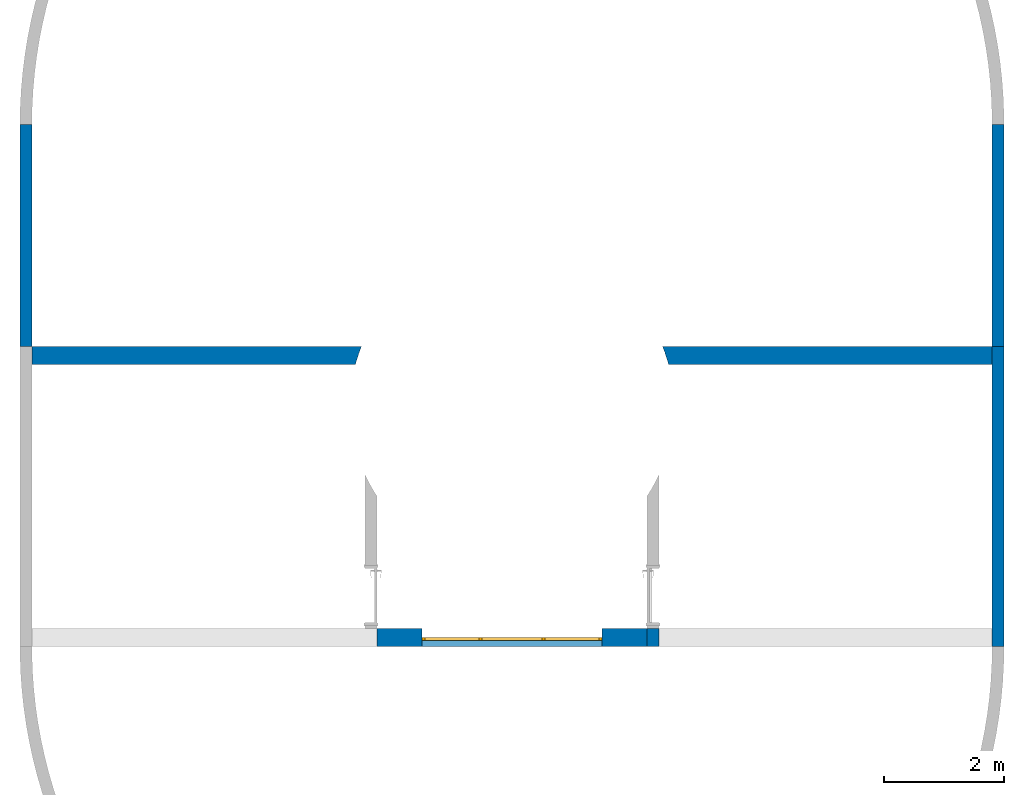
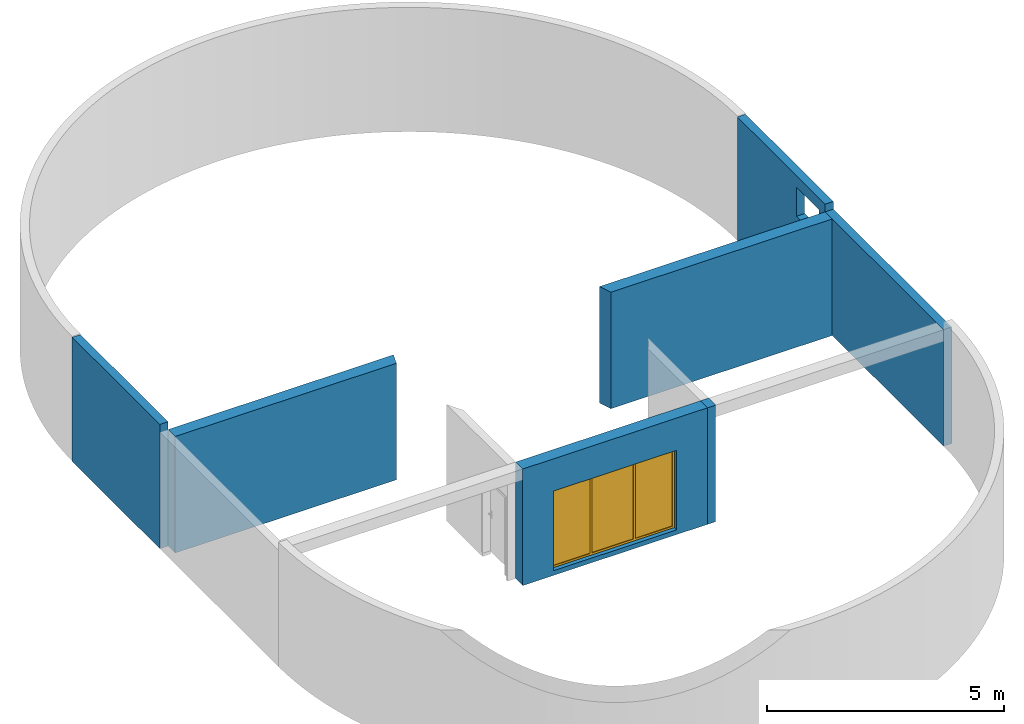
# One storey, part 4 of 5: 7 walls, 1 window, 3 openings.
"""IFC4 building model written with IfcOpenShell, lengths in millimetres."""

from ifc_helpers import new_model, entity, si_unit, converted_unit, derived_unit, direction, frame, origin_with_axes, place, context, subcontext, project, spatial, polygons, material, constituent, constituent_set, type_object, element, fill, save


model = new_model("IFC4")

# Units and contexts
model_context = context("Model", 3, precision=0.01, world=origin_with_axes(), true_north=direction((0.0, 1.0)))
body_context = subcontext(model_context, "Body", "Model", "MODEL_VIEW")
ifc_project = project(units=[si_unit("LENGTHUNIT", "METRE", prefix="MILLI"), si_unit("AREAUNIT", "SQUARE_METRE"), si_unit("VOLUMEUNIT", "CUBIC_METRE"), converted_unit("PLANEANGLEUNIT", "DEGREE", entity("IfcPlaneAngleMeasure", 0.0174532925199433), si_unit("PLANEANGLEUNIT", "RADIAN"), dimensions=[0, 0, 0, 0, 0, 0, 0]), converted_unit("TIMEUNIT", "Year", entity("IfcTimeMeasure", 31557600.0), si_unit("TIMEUNIT", "SECOND"), dimensions=[0, 0, 1, 0, 0, 0, 0]), si_unit("MASSUNIT", "GRAM", prefix="KILO"), si_unit("THERMODYNAMICTEMPERATUREUNIT", "DEGREE_CELSIUS"), si_unit("LUMINOUSINTENSITYUNIT", "LUMEN"), si_unit("ENERGYUNIT", "JOULE", prefix="MEGA"), derived_unit("THERMALCONDUCTANCEUNIT", [(si_unit("POWERUNIT", "WATT"), 1), (si_unit("LENGTHUNIT", "METRE"), -1), (si_unit("THERMODYNAMICTEMPERATUREUNIT", "KELVIN"), -1)]), derived_unit("SPECIFICHEATCAPACITYUNIT", [(si_unit("ENERGYUNIT", "JOULE"), 1), (si_unit("MASSUNIT", "GRAM", prefix="KILO"), -1), (si_unit("THERMODYNAMICTEMPERATUREUNIT", "KELVIN"), -1)]), derived_unit("MASSDENSITYUNIT", [(si_unit("MASSUNIT", "GRAM", prefix="KILO"), 1), (si_unit("VOLUMEUNIT", "CUBIC_METRE"), -1)])], contexts=[model_context])

# Site, building, storey
site_placement = place(None, origin_with_axes())
site = spatial("IfcSite", under=ifc_project, at=site_placement, Name="Exteriér", CompositionType="ELEMENT")
building_placement = place(site_placement, origin_with_axes())
building = spatial("IfcBuilding", under=site, at=building_placement, Name="Univerzitní lezecké centrum", CompositionType="ELEMENT")
storey_placement = place(building_placement, frame((0.0, 0.0, 3200.0), z_axis=(0.0, 0.0, 1.0), x_axis=(1.0, 0.0, 0.0)))
storey = spatial("IfcBuildingStorey", under=building, at=storey_placement, Name="2.NP", CompositionType="ELEMENT", Elevation=3200.0)

# Walls
ifc_material_1 = material(Name="Beton vyztužený - vnější svislé kce")
ifc_constituent_1 = constituent(ifc_material_1, Name="Beton vyztužený - vnější svislé kce")
ifc_constituent_set_1 = constituent_set(constituents=[ifc_constituent_1], Name="!Vnější betonová stěna 200 mm")
wall_type_1 = type_object("IfcWallType", Name="!Vnější betonová stěna 200 mm 200", PredefinedType="NOTDEFINED")
wall_1_placement = place(storey_placement, frame((10449.85164885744, 4699.99999999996, -120.000000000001), z_axis=(0.0, 0.0, 1.0), x_axis=(0.0, -1.0, 0.0)))
element("IfcWall", 1, at=wall_1_placement, inside=storey, type_object=wall_type_1, material=ifc_constituent_set_1, Name="St01", PredefinedType="NOTDEFINED", context=body_context, shape_type="Tessellation", body=[
    polygons([(0.0, 0.0, 3000.0), (5000.0, 0.0, 3000.0), (5000.0, 199.9999999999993, 3000.0), (0.0, 200.0000000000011, 3000.0), (0.0, 0.0, 0.0), (5000.0, 0.0, 0.0), (5000.0, 199.9999999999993, 0.0), (0.0, 199.9999999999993, 0.0)], [[[1, 2, 3, 4]], [[5, 6, 2, 1]], [[3, 2, 6, 7]], [[4, 3, 7, 8]], [[5, 1, 4, 8]], [[8, 7, 6, 5]]], closed=True),
])
ifc_constituent_2 = constituent(ifc_material_1, Name="Beton vyztužený - vnější svislé kce")
ifc_constituent_set_2 = constituent_set(constituents=[ifc_constituent_2], Name="!Vnější betonová stěna 200 mm")
wall_2_placement = place(storey_placement, frame((-5550.148351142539, 8400.000000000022, -120.0000000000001), z_axis=(0.0, 0.0, 1.0), x_axis=(0.0, -1.0, 0.0)))
element("IfcWall", 2, at=wall_2_placement, inside=storey, type_object=wall_type_1, material=ifc_constituent_set_2, Name="St01", PredefinedType="NOTDEFINED", context=body_context, shape_type="Tessellation", body=[
    polygons([(3700.000000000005, -200.0000000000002, 3000.0), (3700.000000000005, 0.0, 3000.0), (3700.000000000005, 0.0, 3200.0), (3700.000000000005, -200.0000000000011, 3200.0), (3700.000000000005, 0.0, 0.0), (3700.000000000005, -200.0000000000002, 0.0), (0.0, 0.0, 0.0), (0.0, 0.0, 3200.0), (0.0, -200.0000000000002, 3200.0), (0.0, -200.0000000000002, 0.0)], [[[1, 2, 3, 4]], [[5, 2, 1, 6]], [[2, 5, 7, 8, 3]], [[9, 4, 3, 8]], [[6, 1, 4, 9, 10]], [[5, 6, 10, 7]], [[9, 8, 7, 10]]], closed=True),
])

# Wall, openings
ifc_constituent_3 = constituent(ifc_material_1, Name="Beton vyztužený - vnější svislé kce")
ifc_constituent_set_3 = constituent_set(constituents=[ifc_constituent_3], Name="!Vnější betonová stěna 200 mm")
wall_3_placement = place(storey_placement, frame((10449.85164885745, 8399.999999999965, -120.000000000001), z_axis=(0.0, 0.0, 1.0), x_axis=(0.0, -1.0, 0.0)))
wall_3 = element("IfcWall", 3, at=wall_3_placement, inside=storey, type_object=wall_type_1, material=ifc_constituent_set_3, Name="St01", PredefinedType="NOTDEFINED", context=body_context, shape_type="Tessellation", body=[
    polygons([(3700.000000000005, 0.0, 3000.0), (3700.000000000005, 200.0000000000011, 3000.0), (3700.000000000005, 200.0000000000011, 3200.0), (3700.000000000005, 0.0, 3200.0), (3700.000000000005, 199.9999999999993, 0.0), (3700.000000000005, 0.0, 0.0), (0.0, 199.9999999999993, 0.0), (0.0, 200.0000000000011, 3200.0), (2477.665309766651, 200.0000000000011, 292.6445664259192), (3417.665309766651, 200.0000000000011, 292.6445664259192), (3417.665309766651, 200.0000000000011, 1032.644566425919), (2477.665309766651, 200.0000000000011, 1032.644566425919), (2493.613625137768, 200.0000000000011, 2158.246547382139), (3433.613625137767, 200.0000000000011, 2158.246547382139), (3433.613625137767, 200.0000000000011, 2898.246547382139), (2493.613625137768, 200.0000000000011, 2898.246547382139), (0.0, 0.0, 3200.0), (0.0, 0.0, 0.0), (3417.665309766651, 0.0, 1032.644566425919), (3417.665309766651, 0.0, 292.6445664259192), (2477.665309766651, 0.0, 292.6445664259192), (2477.665309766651, 0.0, 1032.644566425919), (3433.613625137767, 0.0, 2898.246547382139), (3433.613625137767, 0.0, 2158.246547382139), (2493.613625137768, 0.0, 2158.246547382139), (2493.613625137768, 0.0, 2898.246547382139)], [[[1, 2, 3, 4]], [[5, 2, 1, 6]], [[2, 5, 7, 8, 3], [9, 10, 11, 12], [13, 14, 15, 16]], [[8, 17, 4, 3]], [[6, 1, 4, 17, 18], [19, 20, 21, 22], [23, 24, 25, 26]], [[5, 6, 18, 7]], [[8, 7, 18, 17]], [[20, 10, 9, 21]], [[19, 11, 10, 20]], [[22, 12, 11, 19]], [[21, 9, 12, 22]], [[24, 14, 13, 25]], [[23, 15, 14, 24]], [[26, 16, 15, 23]], [[25, 13, 16, 26]]], closed=True),
])
opening_1_placement = place(wall_3_placement, frame((8399.999999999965, -10449.85164885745, -3080.0), z_axis=(0.0, 0.0, 1.0), x_axis=(0.0, 1.0, 0.0)))
element("IfcOpeningElement", 4, at=opening_1_placement, cuts=wall_3, Name="Pr01", PredefinedType="NOTDEFINED", context=body_context, identifier="Reference", shape_type="Tessellation", body=[
    polygons([(10249.85164885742, 5922.334690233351, 3372.644566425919), (10249.85164885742, 5922.334690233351, 4112.644566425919), (10849.85164885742, 5922.334690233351, 4112.644566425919), (10849.85164885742, 5922.334690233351, 3372.644566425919), (10249.85164885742, 4982.334690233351, 3372.644566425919), (10249.85164885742, 4982.334690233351, 4112.644566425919), (10849.85164885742, 4982.334690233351, 4112.644566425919), (10849.85164885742, 4982.334690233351, 3372.644566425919)], [[[1, 2, 3, 4]], [[1, 5, 6, 2]], [[2, 6, 7, 3]], [[4, 3, 7, 8]], [[5, 1, 4, 8]], [[6, 5, 8, 7]]], closed=True),
])
opening_2_placement = place(wall_3_placement, frame((8399.999999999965, -10449.85164885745, -3080.0), z_axis=(0.0, 0.0, 1.0), x_axis=(0.0, 1.0, 0.0)))
element("IfcOpeningElement", 5, at=opening_2_placement, cuts=wall_3, Name="Pr01", PredefinedType="NOTDEFINED", context=body_context, identifier="Reference", shape_type="Tessellation", body=[
    polygons([(10249.85164885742, 5906.386374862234, 5238.246547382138), (10249.85164885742, 5906.386374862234, 5978.246547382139), (10849.85164885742, 5906.386374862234, 5978.246547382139), (10849.85164885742, 5906.386374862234, 5238.246547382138), (10249.85164885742, 4966.386374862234, 5238.246547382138), (10249.85164885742, 4966.386374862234, 5978.246547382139), (10849.85164885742, 4966.386374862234, 5978.246547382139), (10849.85164885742, 4966.386374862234, 5238.246547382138)], [[[1, 2, 3, 4]], [[1, 5, 6, 2]], [[2, 6, 7, 3]], [[4, 3, 7, 8]], [[5, 1, 4, 8]], [[6, 5, 8, 7]]], closed=True),
])

# Walls
ifc_material_2 = material(Name="Beton vyztužený - vnitřní svislé kce")
ifc_constituent_4 = constituent(ifc_material_2, Name="Beton vyztužený - vnitřní svislé kce")
ifc_constituent_set_4 = constituent_set(constituents=[ifc_constituent_4], Name="!Vnitřní betonová stěna 300 mm")
wall_type_2 = type_object("IfcWallType", Name="!Vnitřní betonová stěna 300 mm 300", PredefinedType="NOTDEFINED")
wall_4_placement = place(storey_placement, frame((4741.139496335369, 4699.999999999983, -120.000000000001), z_axis=(0.0, 0.0, 1.0), x_axis=(1.0, 0.0, 0.0)))
element("IfcWall", 6, at=wall_4_placement, inside=storey, type_object=wall_type_2, material=ifc_constituent_set_4, Name="St04", PredefinedType="NOTDEFINED", context=body_context, shape_type="Tessellation", body=[
    polygons([(253.2661307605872, -93.031968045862, 3000.0), (305.6665879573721, -256.2435752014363, 3000.0), (316.7088482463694, -300.0000000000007, 3000.0), (5708.712152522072, -299.9999999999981, 3000.0), (5708.712152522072, 0.0, 3000.0), (216.7398023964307, 0.0, 3000.0), (253.2661307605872, -93.031968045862, 0.0), (305.6665879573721, -256.2435752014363, 0.0), (316.7088482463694, -300.0000000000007, 0.0), (5708.712152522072, -299.9999999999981, 0.0), (5708.712152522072, 0.0, 0.0), (216.7398023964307, 0.0, 0.0)], [[[1, 2, 3, 4, 5, 6]], [[2, 1, 7, 8]], [[9, 3, 2, 8]], [[3, 9, 10, 4]], [[5, 4, 10, 11]], [[12, 6, 5, 11]], [[1, 6, 12, 7]], [[7, 12, 11, 10, 9, 8]]], closed=True),
])
ifc_constituent_5 = constituent(ifc_material_2, Name="Beton vyztužený - vnitřní svislé kce")
ifc_constituent_set_5 = constituent_set(constituents=[ifc_constituent_5], Name="!Vnitřní betonová stěna 300 mm")
wall_5_placement = place(storey_placement, frame((-5550.148351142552, 4700.000000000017, -120.000000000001), z_axis=(0.0, 0.0, 1.0), x_axis=(1.0, 0.0, 0.0)))
element("IfcWall", 7, at=wall_5_placement, inside=storey, type_object=wall_type_2, material=ifc_constituent_set_5, Name="St04", PredefinedType="NOTDEFINED", context=body_context, shape_type="Tessellation", body=[
    polygons([(5396.315327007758, -280.1582932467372, 3000.0), (5447.21256919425, -116.4716799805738, 3000.0), (5491.709955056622, 0.0, 3000.0), (0.0, 0.0, 3000.0), (1.001296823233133e-07, -299.9999999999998, 3000.0), (5391.50178103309, -300.0000000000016, 3000.0), (5396.315327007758, -280.1582932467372, 0.0), (5447.21256919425, -116.4716799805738, 0.0), (5491.709955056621, 0.0, 0.0), (0.0, 0.0, 0.0), (1.001296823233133e-07, -299.9999999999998, 0.0), (5391.50178103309, -300.0000000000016, 0.0)], [[[1, 2, 3, 4, 5, 6]], [[2, 1, 7, 8]], [[9, 3, 2, 8]], [[3, 9, 10, 4]], [[5, 4, 10, 11]], [[12, 6, 5, 11]], [[1, 6, 12, 7]], [[7, 12, 11, 10, 9, 8]]], closed=True),
])

# Wall, opening, window
ifc_constituent_6 = constituent(ifc_material_2, Name="Beton vyztužený - vnitřní svislé kce")
ifc_constituent_set_6 = constituent_set(constituents=[ifc_constituent_6], Name="!Vnitřní betonová stěna 300 mm")
wall_6_placement = place(storey_placement, frame((4699.887333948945, 0.7940279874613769, -120.000000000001), z_axis=(0.0, 0.0, 1.0), x_axis=(-0.9999999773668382, -0.0002127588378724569, 0.0)))
wall_6 = element("IfcWall", 8, at=wall_6_placement, inside=storey, type_object=wall_type_2, material=ifc_constituent_set_6, Name="St04", PredefinedType="NOTDEFINED", context=body_context, shape_type="Tessellation", body=[
    polygons([(4500.157272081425, 299.9999999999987, 0.0), (4500.157272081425, 299.9999999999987, 2999.999999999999), (4500.157272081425, 0.0, 2999.999999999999), (4500.157272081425, 0.0, 0.0), (0.07116504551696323, 299.9999999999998, 0.0), (0.07116504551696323, 299.9999999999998, 3000.0), (750.2151075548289, 299.9999999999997, 120.000000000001), (3750.21510755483, 299.9999999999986, 120.000000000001), (3750.21510755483, 299.9999999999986, 2170.0), (750.2151075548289, 299.9999999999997, 2170.0), (0.0, 0.0, 3000.0), (0.0, 0.0, 0.0), (750.2151325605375, 2.086548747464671e-05, 0.0), (750.2151075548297, 0.0, 0.500000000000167), (750.2151075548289, 0.0, 120.000000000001), (750.2151075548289, 0.0, 2170.0), (3750.21510755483, 0.0, 2170.0), (3750.21510755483, 0.0, 120.000000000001), (3750.21510755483, 0.0, 0.500000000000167), (3750.215081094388, 0.0, 0.0), (3750.21510755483, 0.1595571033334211, 0.0), (3750.151308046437, 0.1595706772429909, 0.0), (3750.188540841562, 175.1595596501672, 0.0), (750.2151075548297, 175.7978305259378, 0.0), (3750.21510755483, 0.1595571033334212, 120.000000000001), (750.2151075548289, 175.7978305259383, 120.000000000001), (3750.188540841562, 175.1595596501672, 120.000000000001), (3750.183187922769, 149.9999999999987, 120.000000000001), (3750.151308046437, 0.1595706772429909, 120.000000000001), (750.2151075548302, 175.7978305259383, 0.500000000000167), (3750.21510755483, 0.1595571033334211, 0.500000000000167), (3750.151308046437, 0.1595706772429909, 0.500000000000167), (3750.188540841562, 175.1595596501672, 0.500000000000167)], [[[1, 2, 3, 4]], [[1, 5, 6, 2], [7, 8, 9, 10]], [[3, 2, 6, 11]], [[4, 3, 11, 12, 13, 14, 15, 16, 17, 18, 19, 20]], [[5, 1, 4, 20, 21, 22, 23, 24, 13, 12]], [[6, 5, 12, 11]], [[25, 8, 7, 26, 27, 28, 29]], [[18, 17, 9, 8, 25]], [[10, 9, 17, 16]], [[7, 10, 16, 15, 26]], [[13, 24, 30, 14]], [[14, 30, 26, 15]], [[31, 19, 18, 25]], [[21, 20, 19, 31]], [[21, 31, 32, 22]], [[33, 23, 22, 32]], [[24, 23, 33, 30]], [[33, 27, 26, 30]], [[27, 33, 32, 29, 28]], [[31, 25, 29, 32]]], closed=True),
])
opening_3_placement = place(wall_6_placement, frame((2250.21510755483, 0.0, 120.000000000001), z_axis=(0.0, 0.0, 1.0), x_axis=(1.0, 0.0, 0.0)))
opening_3 = element("IfcOpeningElement", 9, at=opening_3_placement, cuts=wall_6, Name="O02", context=body_context, identifier="Reference", shape_type="Tessellation", body=[
    polygons([(1500.0, 149.9999999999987, 0.0), (1500.0, 149.9999999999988, 2050.0), (1500.0, -1.957448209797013, 2050.0), (1500.0, -1.957448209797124, 0.0), (1500.0, 301.9574482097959, 0.0), (1500.0, 301.9574482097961, 2050.0), (-1500.0, 149.9999999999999, 2050.0), (-1500.000000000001, -1.957448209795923, 2050.0), (-1500.0, 301.9574482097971, 2050.0), (-1500.000000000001, -1.957448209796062, 0.0), (-1500.0, 149.9999999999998, 0.0), (-1500.0, 301.957448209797, 0.0)], [[[1, 2, 3, 4]], [[2, 1, 5, 6]], [[7, 8, 3, 2, 6, 9]], [[8, 10, 4, 3]], [[1, 4, 10, 11, 12, 5]], [[6, 5, 12, 9]], [[7, 11, 10, 8]], [[11, 7, 9, 12]]], closed=True),
])
window_type = type_object("IfcWindowType", Name="Trojkřídlé okno 27", PartitioningType="TRIPLE_PANEL_VERTICAL", PredefinedType="NOTDEFINED")
window_placement = place(opening_3_placement, frame((-1500.000000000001, 0.0, 0.0), z_axis=(0.0, 0.0, 1.0), x_axis=(1.0, 0.0, 0.0)))
window = element("IfcWindow", 10, at=window_placement, inside=storey, type_object=window_type, Name="O02", OverallHeight=2050.0, OverallWidth=3000.0, PredefinedType="NOTDEFINED", context=body_context, shape_type="Tessellation", body=[
    polygons([(2950.0, 199.9999999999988, 49.99999999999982), (2950.0, 149.9999999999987, 49.99999999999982), (3000.0, 149.9999999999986, 49.99999999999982), (3000.0, 199.9999999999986, 49.99999999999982), (2049.5, 199.9999999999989, 49.99999999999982), (2049.5, 149.9999999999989, 49.99999999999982), (1999.5, 149.9999999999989, 49.99999999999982), (1000.5, 149.9999999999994, 49.99999999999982), (950.5000000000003, 149.9999999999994, 49.99999999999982), (49.99999999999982, 149.9999999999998, 49.99999999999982), (0.0, 149.9999999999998, 49.99999999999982), (0.0, 149.9999999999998, 0.0), (3000.0, 149.9999999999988, 0.0), (3000.0, 199.9999999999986, 0.0), (0.0, 199.9999999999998, 0.0), (0.0, 199.9999999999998, 49.99999999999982), (50.00000000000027, 199.9999999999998, 49.99999999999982), (950.4999999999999, 199.9999999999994, 49.99999999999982), (1000.5, 199.9999999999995, 49.99999999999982), (1999.5, 199.9999999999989, 49.99999999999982)], [[[1, 2, 3, 4]], [[5, 6, 2, 1]], [[3, 2, 6, 7, 8, 9, 10, 11, 12, 13]], [[4, 3, 13, 14]], [[5, 1, 4, 14, 15, 16, 17, 18, 19, 20]], [[20, 7, 6, 5]], [[19, 8, 7, 20]], [[18, 9, 8, 19]], [[17, 10, 9, 18]], [[16, 11, 10, 17]], [[15, 12, 11, 16]], [[14, 13, 12, 15]]], closed=True),
    polygons([(2950.0, 149.9999999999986, 2000.0), (3000.0, 149.9999999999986, 2000.0), (3000.0, 199.9999999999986, 2000.0), (2950.0, 199.9999999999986, 2000.0), (2950.0, 149.9999999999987, 49.99999999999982), (3000.0, 149.9999999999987, 49.99999999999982), (3000.0, 199.9999999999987, 49.99999999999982), (2950.0, 199.9999999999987, 49.99999999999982)], [[[1, 2, 3, 4]], [[1, 5, 6, 2]], [[2, 6, 7, 3]], [[4, 3, 7, 8]], [[5, 1, 4, 8]], [[6, 5, 8, 7]]], closed=True),
    polygons([(49.99999999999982, 149.9999999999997, 49.99999999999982), (0.0, 149.9999999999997, 49.99999999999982), (0.0, 199.9999999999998, 49.99999999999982), (50.00000000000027, 199.9999999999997, 49.99999999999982), (49.99999999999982, 149.9999999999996, 2000.0), (0.0, 149.9999999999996, 2000.0), (0.0, 199.9999999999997, 2000.0), (50.00000000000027, 199.9999999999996, 2000.0)], [[[1, 2, 3, 4]], [[1, 5, 6, 2]], [[2, 6, 7, 3]], [[4, 3, 7, 8]], [[5, 1, 4, 8]], [[6, 5, 8, 7]]], closed=True),
    polygons([(1000.5, 149.9999999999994, 49.99999999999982), (950.5000000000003, 149.9999999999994, 49.99999999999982), (950.4999999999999, 199.9999999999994, 49.99999999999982), (1000.5, 199.9999999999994, 49.99999999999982), (1000.5, 149.9999999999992, 2000.0), (950.5000000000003, 149.9999999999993, 2000.0), (950.4999999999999, 199.9999999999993, 2000.0), (1000.5, 199.9999999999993, 2000.0)], [[[1, 2, 3, 4]], [[1, 5, 6, 2]], [[2, 6, 7, 3]], [[4, 3, 7, 8]], [[5, 1, 4, 8]], [[6, 5, 8, 7]]], closed=True),
    polygons([(1999.5, 149.9999999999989, 2000.0), (2049.5, 149.9999999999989, 2000.0), (2049.5, 199.9999999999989, 2000.0), (1999.5, 199.9999999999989, 2000.0), (1999.5, 149.999999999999, 49.99999999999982), (2049.5, 149.999999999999, 49.99999999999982), (2049.5, 199.999999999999, 49.99999999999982), (1999.5, 199.999999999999, 49.99999999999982)], [[[1, 2, 3, 4]], [[1, 5, 6, 2]], [[2, 6, 7, 3]], [[4, 3, 7, 8]], [[5, 1, 4, 8]], [[6, 5, 8, 7]]], closed=True),
    polygons([(2049.5, 149.9999999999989, 2000.0), (1999.5, 149.9999999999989, 2000.0), (1999.5, 199.9999999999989, 2000.0), (2049.5, 199.9999999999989, 2000.0), (2950.0, 149.9999999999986, 2000.0), (3000.0, 149.9999999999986, 2000.0), (3000.0, 149.9999999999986, 2050.0), (0.0, 149.9999999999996, 2050.0), (0.0, 149.9999999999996, 2000.0), (49.99999999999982, 149.9999999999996, 2000.0), (950.5000000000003, 149.9999999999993, 2000.0), (1000.5, 149.9999999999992, 2000.0), (1000.5, 199.9999999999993, 2000.0), (950.4999999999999, 199.9999999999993, 2000.0), (50.00000000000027, 199.9999999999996, 2000.0), (0.0, 199.9999999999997, 2000.0), (0.0, 199.9999999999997, 2050.0), (3000.0, 199.9999999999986, 2050.0), (3000.0, 199.9999999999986, 2000.0), (2950.0, 199.9999999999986, 2000.0)], [[[1, 2, 3, 4]], [[1, 5, 6, 7, 8, 9, 10, 11, 12, 2]], [[2, 12, 13, 3]], [[4, 3, 13, 14, 15, 16, 17, 18, 19, 20]], [[5, 1, 4, 20]], [[6, 5, 20, 19]], [[7, 6, 19, 18]], [[8, 7, 18, 17]], [[9, 8, 17, 16]], [[10, 9, 16, 15]], [[11, 10, 15, 14]], [[12, 11, 14, 13]]], closed=True),
    polygons([(2950.0, 164.9999999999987, 49.99999999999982), (2950.0, 164.9999999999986, 2000.0), (2049.5, 164.9999999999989, 2000.0), (2049.5, 164.999999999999, 49.99999999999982)], [[[1, 2, 3, 4]]], closed=False),
    polygons([(2950.0, 184.9999999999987, 49.99999999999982), (2049.5, 184.999999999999, 49.99999999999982), (2049.5, 184.9999999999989, 2000.0), (2950.0, 184.9999999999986, 2000.0)], [[[1, 2, 3, 4]]], closed=False),
    polygons([(1999.5, 164.999999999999, 49.99999999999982), (1999.5, 164.9999999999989, 2000.0), (1000.5, 164.9999999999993, 2000.0), (1000.5, 164.9999999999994, 49.99999999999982)], [[[1, 2, 3, 4]]], closed=False),
    polygons([(1999.5, 184.999999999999, 49.99999999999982), (1000.5, 184.9999999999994, 49.99999999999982), (1000.5, 184.9999999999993, 2000.0), (1999.5, 184.9999999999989, 2000.0)], [[[1, 2, 3, 4]]], closed=False),
    polygons([(950.5000000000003, 164.9999999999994, 49.99999999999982), (950.5000000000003, 164.9999999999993, 2000.0), (49.99999999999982, 164.9999999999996, 2000.0), (49.99999999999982, 164.9999999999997, 49.99999999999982)], [[[1, 2, 3, 4]]], closed=False),
    polygons([(950.4999999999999, 184.9999999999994, 49.99999999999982), (50.00000000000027, 184.9999999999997, 49.99999999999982), (50.00000000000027, 184.9999999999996, 2000.0), (950.4999999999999, 184.9999999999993, 2000.0)], [[[1, 2, 3, 4]]], closed=False),
])
fill(opening_3, window)

# Wall
ifc_constituent_7 = constituent(ifc_material_2, Name="Beton vyztužený - vnitřní svislé kce")
ifc_constituent_set_7 = constituent_set(constituents=[ifc_constituent_7], Name="!Vnitřní betonová stěna 200 mm")
wall_type_3 = type_object("IfcWallType", Name="!Vnitřní betonová stěna 200 mm 200", PredefinedType="NOTDEFINED")
wall_7_placement = place(storey_placement, frame((4699.887333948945, 0.7940279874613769, -120.000000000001), z_axis=(0.0, 0.0, 1.0), x_axis=(-2.44579744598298e-05, -0.9999999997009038, 0.0)))
element("IfcWall", 11, at=wall_7_placement, inside=storey, type_object=wall_type_3, material=ifc_constituent_set_7, Name="St05", PredefinedType="NOTDEFINED", context=body_context, shape_type="Tessellation", body=[
    polygons([(0.0, 0.0, 0.0), (0.0, 199.9999999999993, 0.0), (300.0000084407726, 199.9999999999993, 0.0), (300.0000084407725, 0.0, 0.0), (0.0, 0.0, 3000.0), (0.0, 200.0000000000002, 3000.0), (300.0000084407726, 199.9999999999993, 3000.0), (300.0000084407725, 0.0, 3000.0)], [[[1, 2, 3, 4]], [[5, 6, 2, 1]], [[2, 6, 7, 3]], [[8, 4, 3, 7]], [[5, 1, 4, 8]], [[6, 5, 8, 7]]], closed=True),
])

save(model, "model.ifc")
